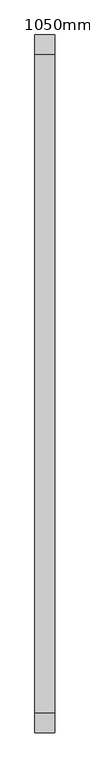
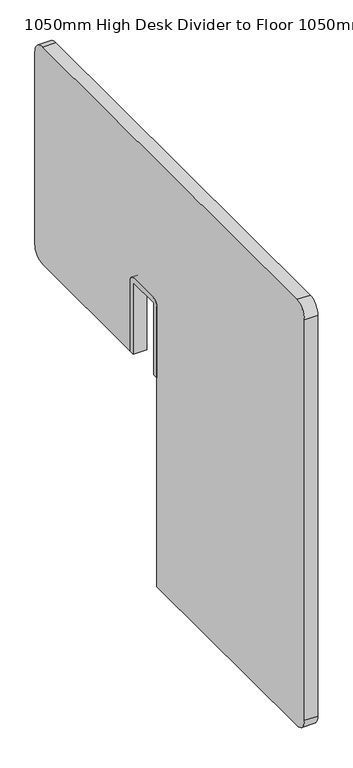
"""IFC4 building model written with IfcOpenShell, lengths in millimetres: furniture geometry, DBLTD_TheSenatorGroup_OffcDsks_Workbase_DeskDivider_FabricScreen : 1050mm High Desk Divider to Floor 1050mm."""

from ifc_helpers import new_model, si_unit, point, frame, frame_2d, origin, place, context, project, spatial, polyline, circle_curve, trimmed, segment, composite_curve, outline, extrude, source, transform, mapped, element, save


def furniture_1050mm_high_desk_divider_to_floor_1050mm_cd484663(model_context):
    return source(origin(), model_context, "Body", "SweptSolid", [
        extrude(outline(composite_curve([segment(polyline([(452.100174, 534.9538126), (440.100174, 534.9538126), (440.100174, 704.9999237), (360.100174, 704.9999237), (360.100174, 534.9538126), (348.100174, 534.9538126), (348.100174, 701.9999237)]), True, "CONTINUOUS"), segment(trimmed(circle_curve(frame_2d((363.100174, 701.9999237)), 15.0), [point((348.100174, 701.9999237))], [point((363.100174, 716.9999237))], False, "CARTESIAN"), True, "CONTINUOUS"), segment(polyline([(363.100174, 716.9999237), (437.100174, 716.9999237)]), True, "CONTINUOUS"), segment(trimmed(circle_curve(frame_2d((437.100174, 701.9999237)), 15.0), [point((437.100174, 716.9999237))], [point((452.100174, 701.9999237))], False, "CARTESIAN"), True, "CONTINUOUS"), segment(polyline([(452.100174, 701.9999237), (452.100174, 534.9538126)]), True, "CONTINUOUS")], self_intersect=False)), frame((82.4883308, 0.0, 0.0), z_axis=(1.0, 0.0, 0.0), x_axis=(0.0, 1.0, 0.0)), (0.0, 0.0, 1.0), 29.9356232),
        extrude(outline(composite_curve([segment(trimmed(circle_curve(frame_2d((792.0270271, 1020.0)), 30.0), [point((792.0270271, 1050.0))], [point((822.0270271, 1020.0))], False, "CARTESIAN"), True, "CONTINUOUS"), segment(polyline([(822.0270271, 1020.0), (822.0270271, 564.9538126)]), True, "CONTINUOUS"), segment(trimmed(circle_curve(frame_2d((792.0270271, 564.9538126)), 30.0), [point((822.0270271, 564.9538126))], [point((792.0270271, 534.9538126))], False, "CARTESIAN"), True, "CONTINUOUS"), segment(polyline([(792.0270271, 534.9538126), (452.100174, 534.9538126), (452.100174, 701.9999237)]), True, "CONTINUOUS"), segment(trimmed(circle_curve(frame_2d((437.100174, 701.9999237)), 15.0), [point((452.100174, 701.9999237))], [point((437.100174, 716.9999237))], True, "CARTESIAN"), True, "CONTINUOUS"), segment(polyline([(437.100174, 716.9999237), (363.100174, 716.9999237)]), True, "CONTINUOUS"), segment(trimmed(circle_curve(frame_2d((363.100174, 701.9999237)), 15.0), [point((363.100174, 716.9999237))], [point((348.100174, 701.9999237))], True, "CARTESIAN"), True, "CONTINUOUS"), segment(polyline([(348.100174, 701.9999237), (348.100174, 40.0), (-194.899826, 40.0)]), True, "CONTINUOUS"), segment(trimmed(circle_curve(frame_2d((-194.899826, 70.0)), 30.0), [point((-194.899826, 40.0))], [point((-224.899826, 70.0))], False, "CARTESIAN"), True, "CONTINUOUS"), segment(polyline([(-224.899826, 70.0), (-224.899826, 1020.0)]), True, "CONTINUOUS"), segment(trimmed(circle_curve(frame_2d((-194.899826, 1020.0)), 30.0), [point((-224.899826, 1020.0))], [point((-194.899826, 1050.0))], False, "CARTESIAN"), True, "CONTINUOUS"), segment(polyline([(-194.899826, 1050.0), (792.0270271, 1050.0)]), True, "CONTINUOUS")], self_intersect=False)), frame((82.4883308, 0.0, 0.0), z_axis=(1.0, 0.0, 0.0), x_axis=(0.0, 1.0, 0.0)), (0.0, 0.0, 1.0), 29.9356232),
    ])


if __name__ == "__main__":
    model = new_model("IFC4")
    model_context = context("Model", 3, world=origin())
    ifc_project = project(units=[si_unit("LENGTHUNIT", "METRE", prefix="MILLI")], contexts=[model_context])
    site = spatial("IfcSite", under=ifc_project)
    building = spatial("IfcBuilding", under=site)
    placement = place(None, origin())
    furniture_1050mm_high_desk_divider_to_floor_1050mm_shape = furniture_1050mm_high_desk_divider_to_floor_1050mm_cd484663(model_context)
    element("IfcFurniture", 1, ObjectType="DBLTD_TheSenatorGroup_OffcDsks_Workbase_DeskDivider_FabricScreen : 1050mm High Desk Divider to Floor 1050mm", at=placement, inside=building, context=model_context, shape_type="MappedRepresentation", body=[
        mapped(furniture_1050mm_high_desk_divider_to_floor_1050mm_shape, transform((0.0, 0.0, 0.0), x_axis=(1.0, 0.0, 0.0), y_axis=(0.0, 1.0, 0.0), z_axis=(0.0, 0.0, 1.0))),
    ])
    save(model, "model.ifc")
